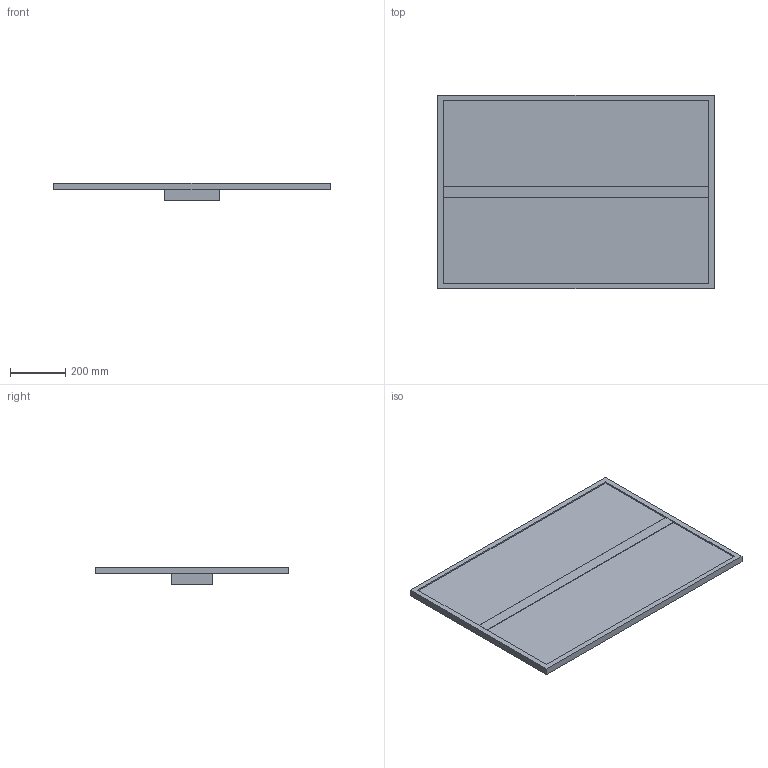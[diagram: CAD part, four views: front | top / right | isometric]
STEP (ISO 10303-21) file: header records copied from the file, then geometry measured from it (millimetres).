
FILE_DESCRIPTION(/* description */ (''),/* implementation_level */ '2;1');
FILE_NAME(/* name */ 'solar_panel.step',/* time_stamp */ '2026-11-14T21:13:10+01:00',/* author */ ('malgo'),/* organization */ (''),/* preprocessor_version */ 'ST-DEVELOPER v20.1',/* originating_system */ 'Autodesk Inventor 2026',/* authorisation */ '');
FILE_SCHEMA (('AUTOMOTIVE_DESIGN { 1 0 10303 214 3 1 1 }'));
Length unit declared in the file: metre
Products named in the file (1): solar_panel
Bounding box: 1000 x 700 x 65 mm (x, y, z)
Volume: 15608800 mm3; surface area: 1532880 mm2
Topology: 1 solids, 1 shells, 20 faces, 48 edges, 32 vertices
Faces by surface type: plane 20
Entity records: 609 total; most frequent: CARTESIAN_POINT 101, ORIENTED_EDGE 96, DIRECTION 90, LINE 48, VECTOR 48, EDGE_CURVE 48, VERTEX_POINT 32, EDGE_LOOP 22
